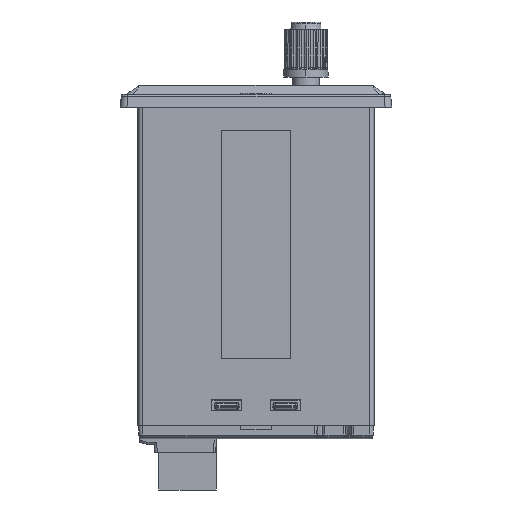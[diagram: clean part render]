
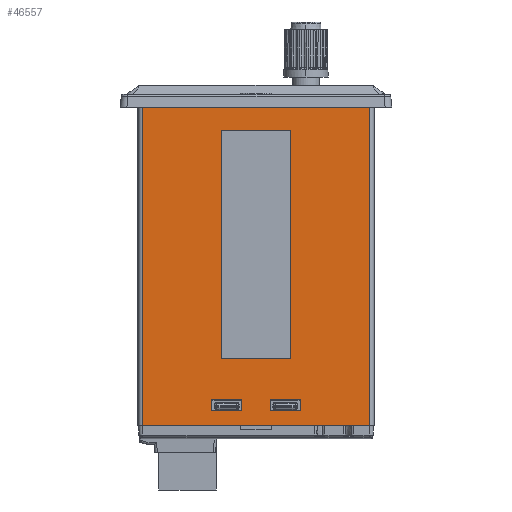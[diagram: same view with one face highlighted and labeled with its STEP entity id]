
A CAD part, front view. The second image highlights one B-rep face of the part: STEP entity #46557.
In plain terms, the highlighted planar face has unit normal (0, -1, 0).
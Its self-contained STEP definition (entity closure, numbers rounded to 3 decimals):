
#236 = VECTOR ( 'NONE', #27544, 1000. ) ;
#1210 = LINE ( 'NONE', #33887, #23307 ) ;
#1262 = EDGE_CURVE ( 'NONE', #78837, #3870, #7410, .T. ) ;
#1727 = FACE_BOUND ( 'NONE', #70827, .T. ) ;
#1948 = ORIENTED_EDGE ( 'NONE', *, *, #40459, .F. ) ;
#2148 = FACE_BOUND ( 'NONE', #80105, .T. ) ;
#2290 = VERTEX_POINT ( 'NONE', #24664 ) ;
#2666 = CARTESIAN_POINT ( 'NONE',  ( -7.703, -40.15, -9.522 ) ) ;
#3870 = VERTEX_POINT ( 'NONE', #64047 ) ;
#4157 = VERTEX_POINT ( 'NONE', #65592 ) ;
#4624 = CARTESIAN_POINT ( 'NONE',  ( -9.843, -40.15, -69.182 ) ) ;
#5094 = CARTESIAN_POINT ( 'NONE',  ( 25.15, -40.15, -4.375 ) ) ;
#5371 = EDGE_CURVE ( 'NONE', #60633, #36448, #1210, .T. ) ;
#6880 = CARTESIAN_POINT ( 'NONE',  ( -3.161, -40.15, -74.875 ) ) ;
#7410 = LINE ( 'NONE', #65391, #45278 ) ;
#8144 = CARTESIAN_POINT ( 'NONE',  ( 7.703, -40.15, 0.325 ) ) ;
#8248 = VECTOR ( 'NONE', #14629, 1000. ) ;
#9008 = DIRECTION ( 'NONE',  ( -1., 0., 0. ) ) ;
#9065 = CARTESIAN_POINT ( 'NONE',  ( 9.888, -40.15, 0.337 ) ) ;
#9110 = EDGE_CURVE ( 'NONE', #2290, #78837, #52073, .T. ) ;
#9295 = VECTOR ( 'NONE', #39298, 1000. ) ;
#9773 = VECTOR ( 'NONE', #17940, 1000. ) ;
#10649 = EDGE_CURVE ( 'NONE', #4157, #65664, #72172, .T. ) ;
#11231 = DIRECTION ( 'NONE',  ( 1., 0., 0. ) ) ;
#12079 = CARTESIAN_POINT ( 'NONE',  ( 28.6, -40.15, -60.028 ) ) ;
#12339 = CARTESIAN_POINT ( 'NONE',  ( 28.6, -40.15, -4.375 ) ) ;
#12531 = ORIENTED_EDGE ( 'NONE', *, *, #5371, .T. ) ;
#13321 = DIRECTION ( 'NONE',  ( 0.001, 0., 1. ) ) ;
#13435 = DIRECTION ( 'NONE',  ( 0., 0., -1. ) ) ;
#13600 = ORIENTED_EDGE ( 'NONE', *, *, #1262, .F. ) ;
#14427 = EDGE_CURVE ( 'NONE', #82872, #26927, #40853, .T. ) ;
#14627 = CARTESIAN_POINT ( 'NONE',  ( 28.6, -40.15, -69.182 ) ) ;
#14629 = DIRECTION ( 'NONE',  ( 1., 0., 0. ) ) ;
#16109 = LINE ( 'NONE', #42325, #81689 ) ;
#16459 = AXIS2_PLACEMENT_3D ( 'NONE', #81561, #23179, #9008 ) ;
#16739 = VERTEX_POINT ( 'NONE', #65660 ) ;
#16954 = LINE ( 'NONE', #53000, #9295 ) ;
#17940 = DIRECTION ( 'NONE',  ( -1., 0., 0. ) ) ;
#19120 = CARTESIAN_POINT ( 'NONE',  ( -8.95, -40.15, -71.666 ) ) ;
#20860 = VERTEX_POINT ( 'NONE', #63736 ) ;
#21449 = VECTOR ( 'NONE', #13321, 1000. ) ;
#21511 = EDGE_CURVE ( 'NONE', #53512, #53753, #84920, .T. ) ;
#22276 = EDGE_CURVE ( 'NONE', #53753, #60603, #78679, .T. ) ;
#22340 = FACE_OUTER_BOUND ( 'NONE', #82627, .T. ) ;
#22674 = CARTESIAN_POINT ( 'NONE',  ( 9.843, -40.15, -69.182 ) ) ;
#23179 = DIRECTION ( 'NONE',  ( 0., -1., 0. ) ) ;
#23307 = VECTOR ( 'NONE', #75030, 1000. ) ;
#24664 = CARTESIAN_POINT ( 'NONE',  ( 7.703, -40.15, -9.522 ) ) ;
#26538 = ORIENTED_EDGE ( 'NONE', *, *, #22276, .T. ) ;
#26927 = VERTEX_POINT ( 'NONE', #50085 ) ;
#27172 = DIRECTION ( 'NONE',  ( 0.001, 0., 1. ) ) ;
#27544 = DIRECTION ( 'NONE',  ( -1., 0., 0. ) ) ;
#28748 = CARTESIAN_POINT ( 'NONE',  ( -25.15, -40.15, -74.875 ) ) ;
#28948 = ORIENTED_EDGE ( 'NONE', *, *, #80327, .F. ) ;
#31110 = CARTESIAN_POINT ( 'NONE',  ( -3.157, -40.15, -69.182 ) ) ;
#31870 = VECTOR ( 'NONE', #27172, 1000. ) ;
#32913 = DIRECTION ( 'NONE',  ( -1., 0., 0. ) ) ;
#32993 = EDGE_LOOP ( 'NONE', ( #51999, #1948, #46645, #13600 ) ) ;
#33219 = CARTESIAN_POINT ( 'NONE',  ( -25.15, -40.15, -74.875 ) ) ;
#33887 = CARTESIAN_POINT ( 'NONE',  ( 8.95, -40.15, -71.666 ) ) ;
#34482 = CARTESIAN_POINT ( 'NONE',  ( 25.15, -40.15, -74.875 ) ) ;
#36125 = EDGE_CURVE ( 'NONE', #3870, #16739, #77771, .T. ) ;
#36448 = VERTEX_POINT ( 'NONE', #44833 ) ;
#39298 = DIRECTION ( 'NONE',  ( 0.001, 0., -1. ) ) ;
#40459 = EDGE_CURVE ( 'NONE', #16739, #2290, #74687, .T. ) ;
#40853 = LINE ( 'NONE', #14627, #236 ) ;
#40855 = CARTESIAN_POINT ( 'NONE',  ( 28.6, -40.15, -74.875 ) ) ;
#41405 = VECTOR ( 'NONE', #11231, 1000. ) ;
#42325 = CARTESIAN_POINT ( 'NONE',  ( 28.6, -40.15, -69.182 ) ) ;
#44468 = CARTESIAN_POINT ( 'NONE',  ( 25.15, -40.15, -4.375 ) ) ;
#44833 = CARTESIAN_POINT ( 'NONE',  ( 3.159, -40.15, -71.666 ) ) ;
#44922 = CARTESIAN_POINT ( 'NONE',  ( 3.161, -40.15, -74.875 ) ) ;
#45054 = EDGE_CURVE ( 'NONE', #60603, #71760, #73470, .T. ) ;
#45278 = VECTOR ( 'NONE', #13435, 1000. ) ;
#46082 = CARTESIAN_POINT ( 'NONE',  ( 25.15, -40.15, -9.522 ) ) ;
#46557 = ADVANCED_FACE ( 'NONE', ( #22340, #1727, #2148, #48538 ), #80734, .T. ) ;
#46631 = DIRECTION ( 'NONE',  ( 0.001, 0., -1. ) ) ;
#46645 = ORIENTED_EDGE ( 'NONE', *, *, #36125, .F. ) ;
#46750 = EDGE_CURVE ( 'NONE', #71760, #53512, #57073, .T. ) ;
#47572 = VECTOR ( 'NONE', #46631, 1000. ) ;
#47957 = ORIENTED_EDGE ( 'NONE', *, *, #45054, .T. ) ;
#48103 = ORIENTED_EDGE ( 'NONE', *, *, #55961, .T. ) ;
#48538 = FACE_BOUND ( 'NONE', #32993, .T. ) ;
#49409 = EDGE_CURVE ( 'NONE', #73093, #20860, #16954, .T. ) ;
#49786 = DIRECTION ( 'NONE',  ( 0., 0., 1. ) ) ;
#50085 = CARTESIAN_POINT ( 'NONE',  ( 3.157, -40.15, -69.182 ) ) ;
#50280 = CARTESIAN_POINT ( 'NONE',  ( -25.15, -40.15, -4.375 ) ) ;
#51999 = ORIENTED_EDGE ( 'NONE', *, *, #9110, .F. ) ;
#52073 = LINE ( 'NONE', #46082, #58289 ) ;
#52082 = VECTOR ( 'NONE', #49786, 1000. ) ;
#53000 = CARTESIAN_POINT ( 'NONE',  ( -9.888, -40.15, 0.3 ) ) ;
#53512 = VERTEX_POINT ( 'NONE', #44468 ) ;
#53753 = VERTEX_POINT ( 'NONE', #50280 ) ;
#53755 = LINE ( 'NONE', #9065, #31870 ) ;
#54213 = VECTOR ( 'NONE', #79104, 1000. ) ;
#55054 = ORIENTED_EDGE ( 'NONE', *, *, #49409, .F. ) ;
#55961 = EDGE_CURVE ( 'NONE', #4157, #20860, #65488, .T. ) ;
#57073 = LINE ( 'NONE', #5094, #52082 ) ;
#58289 = VECTOR ( 'NONE', #66627, 1000. ) ;
#58823 = EDGE_CURVE ( 'NONE', #65664, #73093, #16109, .T. ) ;
#59665 = VECTOR ( 'NONE', #32913, 1000. ) ;
#60603 = VERTEX_POINT ( 'NONE', #28748 ) ;
#60633 = VERTEX_POINT ( 'NONE', #69485 ) ;
#63736 = CARTESIAN_POINT ( 'NONE',  ( -9.841, -40.15, -71.666 ) ) ;
#64047 = CARTESIAN_POINT ( 'NONE',  ( -7.703, -40.15, -60.028 ) ) ;
#65391 = CARTESIAN_POINT ( 'NONE',  ( -7.703, -40.15, -64.875 ) ) ;
#65488 = LINE ( 'NONE', #19120, #59665 ) ;
#65592 = CARTESIAN_POINT ( 'NONE',  ( -3.159, -40.15, -71.666 ) ) ;
#65660 = CARTESIAN_POINT ( 'NONE',  ( 7.703, -40.15, -60.028 ) ) ;
#65664 = VERTEX_POINT ( 'NONE', #31110 ) ;
#66627 = DIRECTION ( 'NONE',  ( -1., 0., 0. ) ) ;
#67754 = ORIENTED_EDGE ( 'NONE', *, *, #70166, .F. ) ;
#68116 = ORIENTED_EDGE ( 'NONE', *, *, #21511, .T. ) ;
#68486 = DIRECTION ( 'NONE',  ( -1., 0., 0. ) ) ;
#68811 = ORIENTED_EDGE ( 'NONE', *, *, #58823, .F. ) ;
#69485 = CARTESIAN_POINT ( 'NONE',  ( 9.841, -40.15, -71.666 ) ) ;
#70166 = EDGE_CURVE ( 'NONE', #60633, #82872, #53755, .T. ) ;
#70827 = EDGE_LOOP ( 'NONE', ( #67754, #12531, #28948, #79128 ) ) ;
#71760 = VERTEX_POINT ( 'NONE', #34482 ) ;
#71838 = DIRECTION ( 'NONE',  ( 0., 0., 1. ) ) ;
#72172 = LINE ( 'NONE', #6880, #21449 ) ;
#73093 = VERTEX_POINT ( 'NONE', #4624 ) ;
#73470 = LINE ( 'NONE', #40855, #8248 ) ;
#74687 = LINE ( 'NONE', #8144, #81437 ) ;
#75030 = DIRECTION ( 'NONE',  ( -1., 0., 0. ) ) ;
#75427 = LINE ( 'NONE', #44922, #47572 ) ;
#77771 = LINE ( 'NONE', #12079, #41405 ) ;
#78679 = LINE ( 'NONE', #33219, #54213 ) ;
#78837 = VERTEX_POINT ( 'NONE', #2666 ) ;
#79104 = DIRECTION ( 'NONE',  ( 0., 0., -1. ) ) ;
#79128 = ORIENTED_EDGE ( 'NONE', *, *, #14427, .F. ) ;
#80105 = EDGE_LOOP ( 'NONE', ( #81241, #48103, #55054, #68811 ) ) ;
#80327 = EDGE_CURVE ( 'NONE', #26927, #36448, #75427, .T. ) ;
#80734 = PLANE ( 'NONE',  #16459 ) ;
#81241 = ORIENTED_EDGE ( 'NONE', *, *, #10649, .F. ) ;
#81437 = VECTOR ( 'NONE', #71838, 1000. ) ;
#81453 = ORIENTED_EDGE ( 'NONE', *, *, #46750, .T. ) ;
#81561 = CARTESIAN_POINT ( 'NONE',  ( 28.6, -40.15, 0.325 ) ) ;
#81689 = VECTOR ( 'NONE', #68486, 1000. ) ;
#82627 = EDGE_LOOP ( 'NONE', ( #26538, #47957, #81453, #68116 ) ) ;
#82872 = VERTEX_POINT ( 'NONE', #22674 ) ;
#84920 = LINE ( 'NONE', #12339, #9773 ) ;
